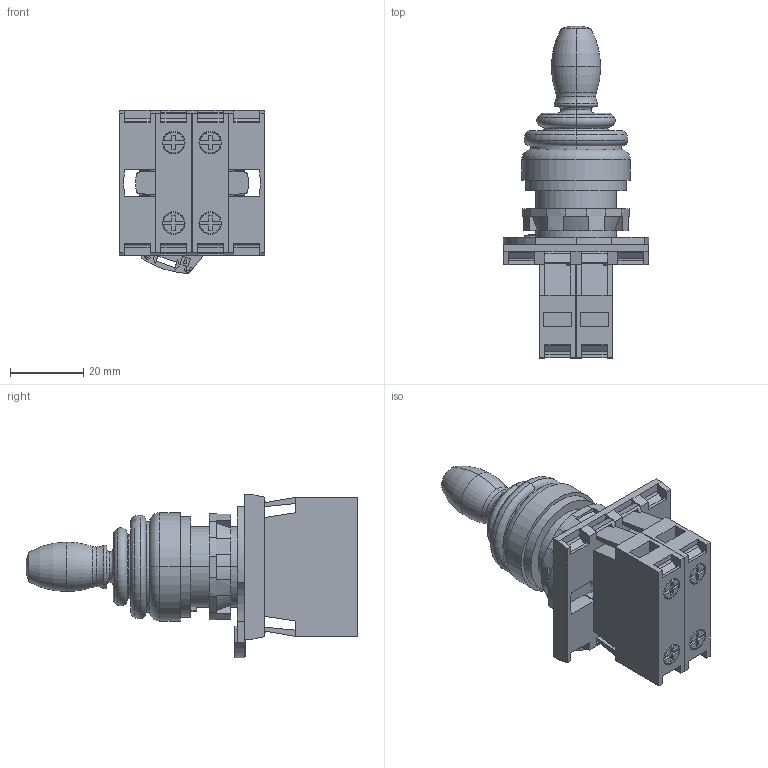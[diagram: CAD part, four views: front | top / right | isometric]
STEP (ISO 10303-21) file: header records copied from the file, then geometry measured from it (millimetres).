
FILE_DESCRIPTION (( 'STEP AP214' ), '1' );
FILE_NAME ('ZF_STEP_E2_AC-DXBC2616.step', '2016-08-01T07:42:47', ( 'utente' ), ( 'Microsoft' ), 'SwSTEP 2.0', 'SolidWorks 2014', '' );
FILE_SCHEMA (( 'AUTOMOTIVE_DESIGN' ));
Length unit declared in the file: millimetre
Products named in the file (6): ZF_STEP_E2_AC-DXBC2616; ZF_STEP_E2_CP10GxV1_A10; ZF_STEP_E2_1BAC21; ZF_STEP_E2_xMA2xxZxx; ZF_STEP_VE_GFx2xA_21008; ZF_STEP_E2_xMA2xxxxx_Z
Assembly tree (6 placements, depth 3):
  ZF_STEP_E2_AC-DXBC2616
    ZF_STEP_E2_xMA2xxZxx
      ZF_STEP_E2_xMA2xxxxx_Z
      ZF_STEP_VE_GFx2xA_21008
    ZF_STEP_E2_1BAC21
    ZF_STEP_E2_CP10GxV1_A10  x2
Bounding box: 39.8 x 90.7 x 44.58 mm (x, y, z)
Volume: 45375 mm3; surface area: 21121.3 mm2
Topology: 5 solids, 5 shells, 563 faces, 1530 edges, 1003 vertices
Faces by surface type: plane 400, cylinder 104, torus 44, cone 11, sphere 4
Entity records: 14722 total; most frequent: CARTESIAN_POINT 2583, ORIENTED_EDGE 2456, DIRECTION 2451, EDGE_CURVE 1228, LINE 881, VECTOR 881, VERTEX_POINT 805, AXIS2_PLACEMENT_3D 785
